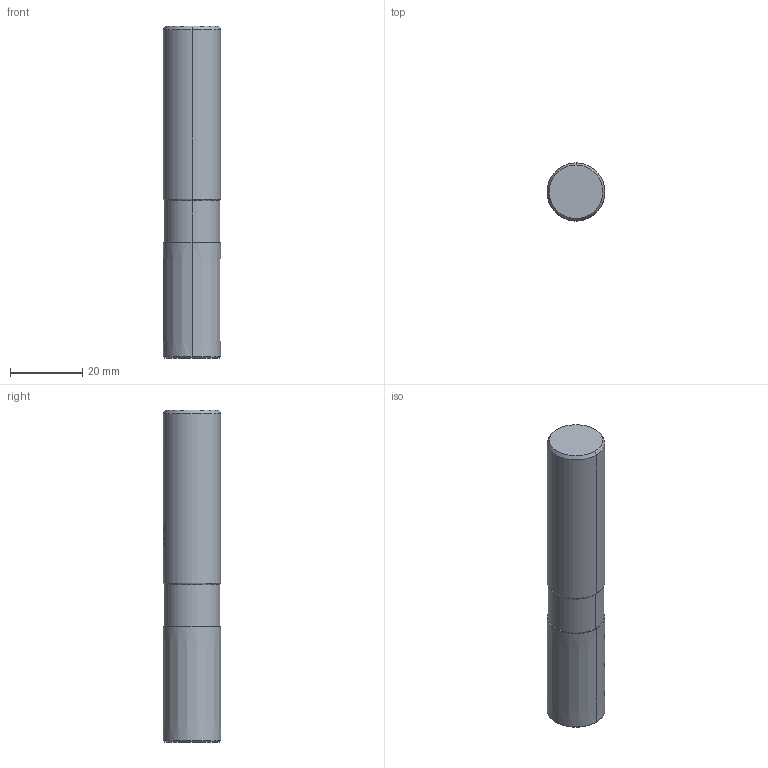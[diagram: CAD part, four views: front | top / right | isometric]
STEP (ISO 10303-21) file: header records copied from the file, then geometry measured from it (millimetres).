
FILE_DESCRIPTION(('no description'),'unknown implementation level');
FILE_NAME('solidD3guvXvagLcbaPcCtu_g1jPF0zs_1.STP',' ',('CIMSOURCE GmbH'),('CADClick - KiM GmbH - www.kimweb.de'),'unknown preprocess','ACIS','unknown authorization');
FILE_SCHEMA(('automotive_design'));
Length unit declared in the file: millimetre
Products named in the file (2): NOCUT; CUT
Bounding box: 16 x 16 x 92 mm (x, y, z)
Volume: 18320.3 mm3; surface area: 6754 mm2
Topology: 2 solids, 2 shells, 39 faces, 89 edges, 56 vertices
Faces by surface type: cylinder 16, cone 12, plane 11
Entity records: 2456 total; most frequent: CARTESIAN_POINT 470, DIRECTION 201, STYLED_ITEM 186, PRESENTATION_STYLE_ASSIGNMENT 186, COLOUR_RGB 186, ORIENTED_EDGE 178, EDGE_CURVE 89, CURVE_STYLE 89
